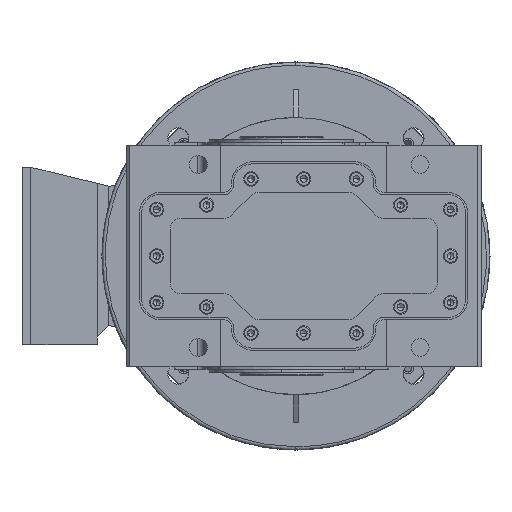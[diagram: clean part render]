
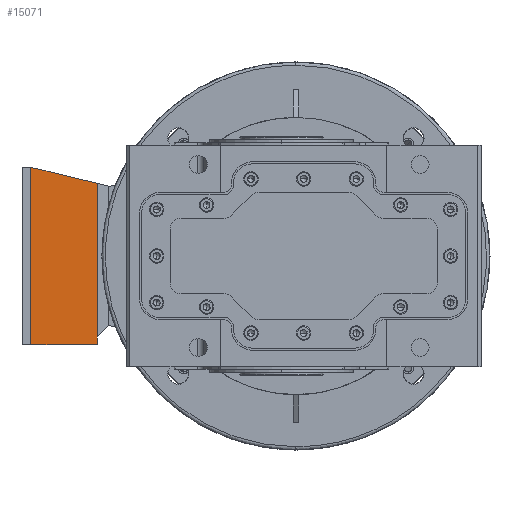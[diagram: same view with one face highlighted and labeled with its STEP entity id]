
A CAD part, left-side view. The second image highlights one B-rep face of the part: STEP entity #15071.
In plain terms, the highlighted planar face has unit normal (-1, 0, 0) as drawn and (0, 0, -1) by its records, which use the part's own axes.
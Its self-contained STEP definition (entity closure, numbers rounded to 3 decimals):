
#117 = DIRECTION ( 'NONE',  ( -1., 0., 0. ) ) ;
#120 = PLANE ( 'NONE',  #1182 ) ;
#121 = CARTESIAN_POINT ( 'NONE',  ( -80., 70., 0. ) ) ;
#132 = DIRECTION ( 'NONE',  ( 0., 0., -1. ) ) ;
#1182 = AXIS2_PLACEMENT_3D ( 'NONE', #121, #132, #117 ) ;
#11011 = ORIENTED_EDGE ( 'NONE', *, *, #48315, .T. ) ;
#11014 = ORIENTED_EDGE ( 'NONE', *, *, #48268, .T. ) ;
#11015 = ORIENTED_EDGE ( 'NONE', *, *, #48308, .T. ) ;
#11021 = ORIENTED_EDGE ( 'NONE', *, *, #48293, .T. ) ;
#11074 = ORIENTED_EDGE ( 'NONE', *, *, #48276, .T. ) ;
#15071 = ADVANCED_FACE ( 'NONE', ( #98885 ), #120, .T. ) ;
#48268 = EDGE_CURVE ( 'NONE', #118615, #118599, #71210, .T. ) ;
#48276 = EDGE_CURVE ( 'NONE', #118611, #118639, #71215, .T. ) ;
#48293 = EDGE_CURVE ( 'NONE', #118639, #118615, #71251, .T. ) ;
#48308 = EDGE_CURVE ( 'NONE', #118599, #118593, #71273, .T. ) ;
#48315 = EDGE_CURVE ( 'NONE', #118593, #118611, #71321, .T. ) ;
#60879 = CARTESIAN_POINT ( 'NONE',  ( -80., 70., 0. ) ) ;
#60906 = DIRECTION ( 'NONE',  ( -1., 0., 0. ) ) ;
#60907 = CARTESIAN_POINT ( 'NONE',  ( -80., 10., 0. ) ) ;
#60912 = DIRECTION ( 'NONE',  ( 1., 0., 0. ) ) ;
#61008 = DIRECTION ( 'NONE',  ( 0., -1., 0. ) ) ;
#61010 = CARTESIAN_POINT ( 'NONE',  ( 80., 10., 0. ) ) ;
#61035 = DIRECTION ( 'NONE',  ( -0.236, 0.972, 0. ) ) ;
#61037 = DIRECTION ( 'NONE',  ( -1., 0., 0. ) ) ;
#61048 = CARTESIAN_POINT ( 'NONE',  ( -80., 10., 0. ) ) ;
#61051 = CARTESIAN_POINT ( 'NONE',  ( -63., 0., 0. ) ) ;
#71193 = VECTOR ( 'NONE', #60906, 1000. ) ;
#71198 = VECTOR ( 'NONE', #61008, 1000. ) ;
#71204 = VECTOR ( 'NONE', #60912, 1000. ) ;
#71210 = LINE ( 'NONE', #60907, #71193 ) ;
#71215 = LINE ( 'NONE', #60879, #71204 ) ;
#71251 = LINE ( 'NONE', #61010, #71198 ) ;
#71273 = LINE ( 'NONE', #61048, #71292 ) ;
#71292 = VECTOR ( 'NONE', #61037, 1000. ) ;
#71302 = VECTOR ( 'NONE', #61035, 1000. ) ;
#71321 = LINE ( 'NONE', #61051, #71302 ) ;
#74816 = CARTESIAN_POINT ( 'NONE',  ( -65.429, 10., 0. ) ) ;
#74842 = CARTESIAN_POINT ( 'NONE',  ( 73., 10., 0. ) ) ;
#74876 = CARTESIAN_POINT ( 'NONE',  ( -80., 70., 0. ) ) ;
#74964 = CARTESIAN_POINT ( 'NONE',  ( 80., 70., 0. ) ) ;
#74974 = CARTESIAN_POINT ( 'NONE',  ( 80., 10., 0. ) ) ;
#98885 = FACE_OUTER_BOUND ( 'NONE', #104609, .T. ) ;
#104609 = EDGE_LOOP ( 'NONE', ( #11015, #11011, #11074, #11021, #11014 ) ) ;
#118593 = VERTEX_POINT ( 'NONE', #74816 ) ;
#118599 = VERTEX_POINT ( 'NONE', #74842 ) ;
#118611 = VERTEX_POINT ( 'NONE', #74876 ) ;
#118615 = VERTEX_POINT ( 'NONE', #74974 ) ;
#118639 = VERTEX_POINT ( 'NONE', #74964 ) ;
